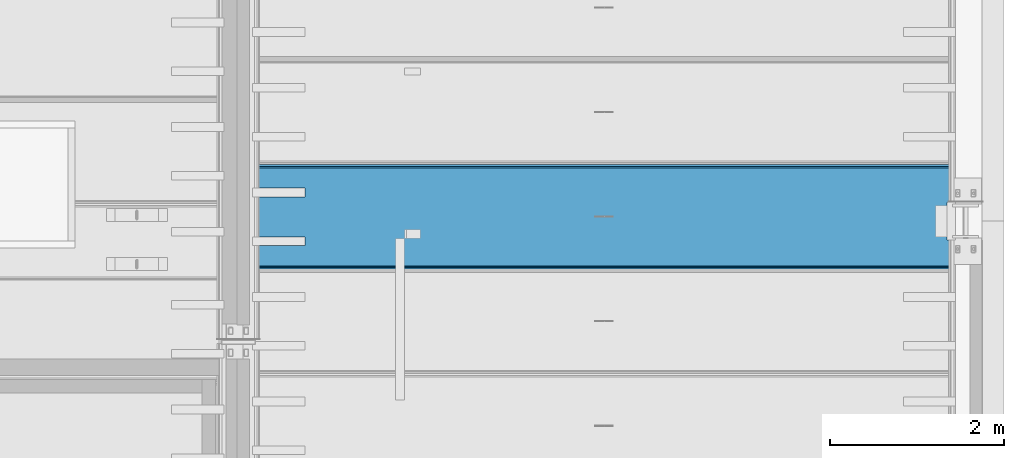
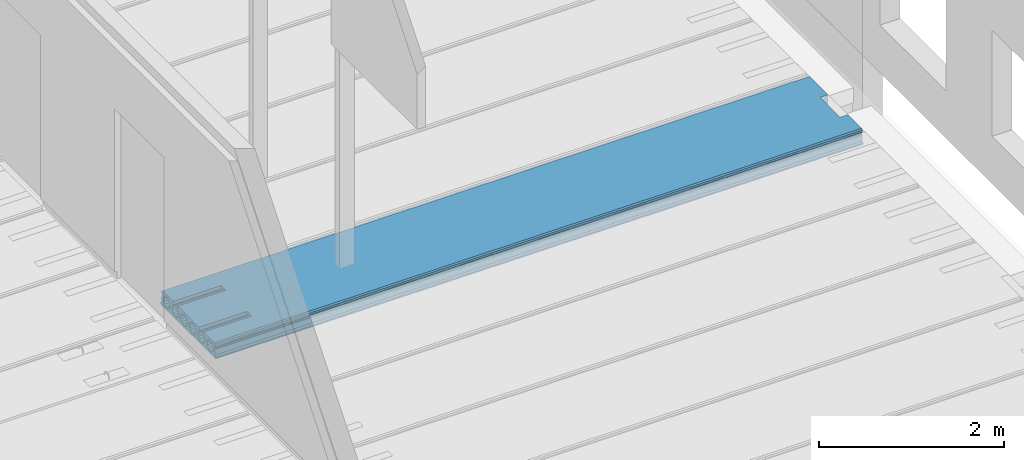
# One storey, part 109 of 230: 1 beam.
"""IFC4X3_ADD2 building model written with IfcOpenShell, lengths in millimetres."""

from ifc_helpers import new_model, si_unit, direction, origin_with_axes, place, context, subcontext, project, spatial, polygons, element, save


model = new_model("IFC4X3_ADD2")

# Units and contexts
model_context = context("Model", 3, precision=1e-05, world=origin_with_axes(), true_north=direction((0.0, 1.0)))
body_context = subcontext(model_context, "Body", "Model", "MODEL_VIEW")
ifc_project = project(units=[si_unit("LENGTHUNIT", "METRE", prefix="MILLI"), si_unit("AREAUNIT", "SQUARE_METRE"), si_unit("VOLUMEUNIT", "CUBIC_METRE"), si_unit("PLANEANGLEUNIT", "RADIAN"), si_unit("TIMEUNIT", "SECOND"), si_unit("MASSUNIT", "GRAM")], contexts=[model_context])

# Site, building, storey
site_placement = place(None, origin_with_axes())
site = spatial("IfcSite", under=ifc_project, at=site_placement, Name="Site", CompositionType="ELEMENT")
building_placement = place(site_placement, origin_with_axes())
building = spatial("IfcBuilding", under=site, at=building_placement, Name="IFC Building Story")
storey_placement = place(building_placement, origin_with_axes())
storey = spatial("IfcBuildingStorey", under=building, at=storey_placement, Name="ETAGE 00 (0)", Elevation=0.0)

# Beam
beam_placement = place(storey_placement, origin_with_axes())
element("IfcBeam", 1, at=beam_placement, inside=storey, Name="HOLLOWCORE SLAB", ObjectType="EB_SP200", context=body_context, shape_type="Tessellation", body=[
    polygons([(40131.189, 9349.0, 3999.9999909), (40131.189, 8171.0, 3999.9999909), (40131.189, 8160.0, 4012.9999909), (40131.189, 8160.0, 4029.9999909), (40131.189, 8180.0, 4044.9999909), (40131.189, 8181.450012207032, 4119.9999909), (40131.189, 8188.982621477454, 4128.676139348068), (40131.189, 8191.839930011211, 4139.805000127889), (40131.189, 8189.418636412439, 4151.036789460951), (40131.189, 8182.22998046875, 4159.9999909), (40131.189, 8182.711296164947, 4185.002769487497), (40131.189, 8198.0, 4199.9999909), (40131.189, 8430.0, 4199.9999909), (40131.189, 8430.0, 4155.806158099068), (40131.189, 8425.320544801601, 4152.679446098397), (40131.189, 8409.17097482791, 4128.509906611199), (40131.189, 8403.5, 4099.9999909), (40131.189, 8409.17097482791, 4071.490075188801), (40131.189, 8425.320544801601, 4047.320535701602), (40131.189, 8449.490084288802, 4031.170965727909), (40131.189, 8478.0, 4025.4999909), (40131.189, 8506.509915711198, 4031.170965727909), (40131.189, 8530.679455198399, 4047.320535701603), (40131.189, 8546.82902517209, 4071.490075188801), (40131.189, 8552.5, 4099.9999909), (40131.189, 8546.82902517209, 4128.509906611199), (40131.189, 8530.679455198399, 4152.679446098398), (40131.189, 8530.0, 4153.13344354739), (40131.189, 8530.0, 4199.9999909), (40131.189, 8990.0, 4199.9999909), (40131.189, 8990.0, 4153.13344354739), (40131.189, 8989.320544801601, 4152.679446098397), (40131.189, 8973.17097482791, 4128.509906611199), (40131.189, 8967.5, 4099.9999909), (40131.189, 8973.17097482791, 4071.490075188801), (40131.189, 8989.320544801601, 4047.320535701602), (40131.189, 9013.490084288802, 4031.170965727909), (40131.189, 9042.0, 4025.4999909), (40131.189, 9070.509915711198, 4031.170965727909), (40131.189, 9094.679455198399, 4047.320535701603), (40131.189, 9110.82902517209, 4071.490075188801), (40131.189, 9116.5, 4099.9999909), (40131.189, 9110.82902517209, 4128.509906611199), (40131.189, 9094.679455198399, 4152.679446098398), (40131.189, 9090.0, 4155.806158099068), (40131.189, 9090.0, 4199.9999909), (40131.189, 9322.0, 4199.9999909), (40131.189, 9337.28870383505, 4185.002769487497), (40131.189, 9337.77001953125, 4159.9999909), (40131.189, 9330.58136358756, 4151.036789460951), (40131.189, 9328.16006998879, 4139.805000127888), (40131.189, 9331.01737852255, 4128.676139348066), (40131.189, 9338.54998779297, 4119.9999909), (40131.189, 9340.0, 4044.9999909), (40131.189, 9360.0, 4029.9999909), (40131.189, 9360.0, 4012.9999909), (40131.189, 9282.679455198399, 4152.679446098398), (40131.189, 9258.5099157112, 4168.829016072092), (40131.189, 9230.0, 4174.4999909), (40131.189, 9201.4900842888, 4168.829016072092), (40131.189, 9177.320544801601, 4152.679446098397), (40131.189, 9161.17097482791, 4128.509906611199), (40131.189, 9155.5, 4099.9999909), (40131.189, 9161.17097482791, 4071.490075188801), (40131.189, 9177.320544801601, 4047.320535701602), (40131.189, 9201.4900842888, 4031.170965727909), (40131.189, 9230.0, 4025.4999909), (40131.189, 9258.5099157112, 4031.170965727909), (40131.189, 9282.679455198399, 4047.320535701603), (40131.189, 9298.82902517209, 4071.490075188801), (40131.189, 9304.5, 4099.9999909), (40131.189, 9298.82902517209, 4128.509906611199), (40131.189, 8906.679455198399, 4152.679446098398), (40131.189, 8882.5099157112, 4168.829016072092), (40131.189, 8854.0, 4174.4999909), (40131.189, 8825.490084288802, 4168.829016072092), (40131.189, 8801.320544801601, 4152.679446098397), (40131.189, 8785.170974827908, 4128.509906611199), (40131.189, 8779.5, 4099.9999909), (40131.189, 8785.17097482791, 4071.490075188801), (40131.189, 8801.320544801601, 4047.320535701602), (40131.189, 8825.490084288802, 4031.170965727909), (40131.189, 8854.0, 4025.4999909), (40131.189, 8882.5099157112, 4031.170965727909), (40131.189, 8906.679455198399, 4047.320535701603), (40131.189, 8922.82902517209, 4071.490075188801), (40131.189, 8928.5, 4099.9999909), (40131.189, 8922.82902517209, 4128.509906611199), (40131.189, 8718.679455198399, 4152.679446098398), (40131.189, 8694.509915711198, 4168.829016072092), (40131.189, 8666.0, 4174.4999909), (40131.189, 8637.4900842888, 4168.829016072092), (40131.189, 8613.320544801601, 4152.679446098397), (40131.189, 8597.17097482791, 4128.509906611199), (40131.189, 8591.5, 4099.9999909), (40131.189, 8597.17097482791, 4071.490075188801), (40131.189, 8613.320544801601, 4047.320535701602), (40131.189, 8637.4900842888, 4031.170965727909), (40131.189, 8666.0, 4025.4999909), (40131.189, 8694.509915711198, 4031.170965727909), (40131.189, 8718.679455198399, 4047.320535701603), (40131.189, 8734.829025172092, 4071.490075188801), (40131.189, 8740.5, 4099.9999909), (40131.189, 8734.82902517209, 4128.509906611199), (40131.189, 8342.679455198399, 4152.679446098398), (40131.189, 8318.5099157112, 4168.829016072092), (40131.189, 8290.0, 4174.4999909), (40131.189, 8261.4900842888, 4168.829016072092), (40131.189, 8237.320544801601, 4152.679446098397), (40131.189, 8221.170974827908, 4128.509906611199), (40131.189, 8215.5, 4099.9999909), (40131.189, 8221.170974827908, 4071.490075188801), (40131.189, 8237.320544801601, 4047.320535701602), (40131.189, 8261.4900842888, 4031.170965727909), (40131.189, 8290.0, 4025.4999909), (40131.189, 8318.5099157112, 4031.170965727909), (40131.189, 8342.679455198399, 4047.320535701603), (40131.189, 8358.829025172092, 4071.490075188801), (40131.189, 8364.5, 4099.9999909), (40131.189, 8358.829025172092, 4128.509906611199), (48196.189, 8198.0, 4199.9999909), (48196.189, 8182.711296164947, 4185.002769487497), (48196.189, 8182.22998046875, 4159.9999909), (48196.189, 8189.418636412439, 4151.036789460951), (48196.189, 8191.839930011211, 4139.805000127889), (48196.189, 8188.982621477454, 4128.676139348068), (48196.189, 8181.450012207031, 4119.9999909), (48196.189, 8180.0, 4044.9999909), (48196.189, 8160.0, 4029.9999909), (48196.189, 8160.0, 4012.9999909), (48196.189, 8171.0, 3999.9999909), (48196.189, 8495.0, 3999.9999909), (48196.189, 8495.0, 4028.881501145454), (48196.189, 8478.0, 4025.4999909), (48196.189, 8449.490084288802, 4031.170965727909), (48196.189, 8425.320544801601, 4047.320535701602), (48196.189, 8409.17097482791, 4071.490075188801), (48196.189, 8403.5, 4099.9999909), (48196.189, 8409.17097482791, 4128.509906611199), (48196.189, 8425.320544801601, 4152.679446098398), (48196.189, 8449.490084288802, 4168.829016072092), (48196.189, 8478.0, 4174.4999909), (48196.189, 8495.0, 4171.118480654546), (48196.189, 8495.0, 4199.9999909), (48196.189, 8342.679455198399, 4152.679446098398), (48196.189, 8358.829025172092, 4128.509906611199), (48196.189, 8364.5, 4099.9999909), (48196.189, 8358.829025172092, 4071.490075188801), (48196.189, 8342.679455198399, 4047.320535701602), (48196.189, 8318.5099157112, 4031.170965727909), (48196.189, 8290.0, 4025.4999909), (48196.189, 8261.4900842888, 4031.170965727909), (48196.189, 8237.320544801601, 4047.320535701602), (48196.189, 8221.170974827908, 4071.490075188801), (48196.189, 8215.5, 4099.9999909), (48196.189, 8221.170974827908, 4128.509906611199), (48196.189, 8237.320544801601, 4152.679446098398), (48196.189, 8261.4900842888, 4168.829016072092), (48196.189, 8290.0, 4174.4999909), (48196.189, 8318.5099157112, 4168.829016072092), (48196.189, 9349.0, 3999.9999909), (48196.189, 8925.0, 3999.9999909), (48096.18900000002, 8925.0, 3999.9999909), (48096.18900000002, 8495.0, 3999.9999909), (40731.189, 9090.0, 4199.9999909), (40731.189, 8990.0, 4199.9999909), (40731.189, 8530.0, 4199.9999909), (40731.189, 8430.0, 4199.9999909), (48096.18900000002, 8495.000000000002, 4199.9999909), (48096.18900000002, 8925.0, 4199.9999909), (48196.189, 8925.0, 4199.9999909), (48196.189, 9322.0, 4199.9999909), (48196.189, 9337.28870383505, 4185.002769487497), (48196.189, 9337.77001953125, 4159.9999909), (48196.189, 9330.58136358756, 4151.036789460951), (48196.189, 9328.16006998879, 4139.805000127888), (48196.189, 9331.01737852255, 4128.676139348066), (48196.189, 9338.54998779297, 4119.9999909), (48196.189, 9340.0, 4044.9999909), (48196.189, 9360.0, 4029.9999909), (48196.189, 9360.0, 4012.9999909), (48196.189, 9282.679455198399, 4152.679446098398), (48196.189, 9258.5099157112, 4168.829016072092), (48196.189, 9230.0, 4174.4999909), (48196.189, 9201.4900842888, 4168.829016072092), (48196.189, 9177.320544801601, 4152.679446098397), (48196.189, 9161.17097482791, 4128.509906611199), (48196.189, 9155.5, 4099.9999909), (48196.189, 9161.17097482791, 4071.490075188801), (48196.189, 9177.320544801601, 4047.320535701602), (48196.189, 9201.4900842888, 4031.170965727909), (48196.189, 9230.0, 4025.4999909), (48196.189, 9258.5099157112, 4031.170965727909), (48196.189, 9282.679455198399, 4047.320535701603), (48196.189, 9298.82902517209, 4071.490075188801), (48196.189, 9304.5, 4099.9999909), (48196.189, 9298.82902517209, 4128.509906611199), (48196.189, 9094.679455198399, 4152.679446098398), (48196.189, 9070.509915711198, 4168.829016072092), (40731.189, 9070.5099157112, 4168.82901607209), (40731.189, 9090.0, 4155.806158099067), (48196.189, 9042.0, 4174.4999909), (40731.189, 9042.0, 4174.4999909), (48196.189, 9013.490084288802, 4168.829016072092), (40731.189, 9013.490084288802, 4168.829016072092), (40731.189, 8990.0, 4153.133443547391), (48196.189, 8989.320544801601, 4152.679446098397), (48196.189, 8973.17097482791, 4128.509906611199), (48196.189, 8967.5, 4099.9999909), (48196.189, 8973.17097482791, 4071.490075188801), (48196.189, 8989.320544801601, 4047.320535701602), (48196.189, 9013.490084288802, 4031.170965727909), (48196.189, 9042.0, 4025.4999909), (48196.189, 9070.509915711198, 4031.170965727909), (48196.189, 9094.679455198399, 4047.320535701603), (48196.189, 9110.82902517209, 4071.490075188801), (48196.189, 9116.5, 4099.9999909), (48196.189, 9110.82902517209, 4128.509906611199), (48096.18900000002, 8906.679455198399, 4152.679446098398), (48096.18900000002, 8882.5099157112, 4168.829016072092), (48096.18900000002, 8854.0, 4174.4999909), (48096.18900000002, 8825.490084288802, 4168.829016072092), (48096.18900000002, 8801.320544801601, 4152.679446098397), (48096.18900000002, 8785.170974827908, 4128.509906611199), (48096.18900000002, 8779.5, 4099.9999909), (48096.18900000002, 8785.17097482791, 4071.490075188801), (48096.18900000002, 8801.320544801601, 4047.320535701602), (48096.18900000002, 8825.490084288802, 4031.170965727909), (48096.18900000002, 8854.0, 4025.4999909), (48096.18900000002, 8882.5099157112, 4031.170965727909), (48096.18900000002, 8906.679455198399, 4047.320535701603), (48096.18900000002, 8922.82902517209, 4071.490075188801), (48096.18900000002, 8924.999999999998, 4082.404302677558), (48196.189, 8925.0, 4082.404302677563), (48196.189, 8928.5, 4099.9999909), (48196.189, 8925.000000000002, 4117.595679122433), (48096.18900000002, 8925.0, 4117.595679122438), (48096.18900000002, 8922.82902517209, 4128.509906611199), (48096.18900000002, 8718.679455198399, 4152.679446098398), (48096.18900000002, 8694.509915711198, 4168.829016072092), (48096.18900000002, 8666.0, 4174.4999909), (48096.18900000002, 8637.4900842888, 4168.829016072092), (48096.18900000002, 8613.320544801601, 4152.679446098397), (48096.18900000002, 8597.17097482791, 4128.509906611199), (48096.18900000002, 8591.5, 4099.9999909), (48096.18900000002, 8597.17097482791, 4071.490075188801), (48096.18900000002, 8613.320544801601, 4047.320535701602), (48096.18900000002, 8637.4900842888, 4031.170965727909), (48096.18900000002, 8666.0, 4025.4999909), (48096.18900000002, 8694.509915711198, 4031.170965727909), (48096.18900000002, 8718.679455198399, 4047.320535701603), (48096.18900000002, 8734.829025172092, 4071.490075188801), (48096.18900000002, 8740.5, 4099.9999909), (48096.18900000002, 8734.82902517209, 4128.509906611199), (48096.18900000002, 8530.679455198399, 4152.679446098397), (48096.18900000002, 8506.509915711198, 4168.829016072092), (40731.189, 8506.5099157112, 4168.82901607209), (40731.189, 8530.0, 4153.13344354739), (40731.189, 8478.0, 4174.4999909), (48096.18900000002, 8495.0, 4171.118480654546), (40731.189, 8449.4900842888, 4168.829016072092), (40731.189, 8430.0, 4155.806158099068), (48096.18900000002, 8495.000000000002, 4028.881501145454), (48096.18900000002, 8506.509915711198, 4031.170965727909), (48096.18900000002, 8530.679455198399, 4047.320535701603), (48096.18900000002, 8546.82902517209, 4071.490075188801), (48096.18900000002, 8552.5, 4099.9999909), (48096.18900000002, 8546.82902517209, 4128.509906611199), (48096.18900000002, 8495.0, 3999.9999969), (48096.18900000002, 8925.0, 3999.9999969), (48096.18900000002, 8495.0, 4199.999996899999), (40731.189, 8990.0, 4199.999996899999), (40731.189, 9090.0, 4199.999996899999), (40731.189, 8430.0, 4199.999996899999), (40731.189, 8530.0, 4199.999996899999), (48096.18900000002, 8925.0, 4199.999996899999)], [[[27, 28, 29]], [[92, 93, 26]], [[92, 26, 27]], [[92, 27, 29]], [[29, 91, 92]], [[91, 29, 30]], [[30, 90, 91]], [[30, 89, 90]], [[94, 95, 25]], [[94, 25, 26]], [[26, 93, 94]], [[96, 97, 24]], [[24, 25, 95]], [[24, 95, 96]], [[97, 23, 24]], [[76, 77, 104]], [[76, 104, 89]], [[89, 75, 76]], [[75, 89, 30]], [[30, 74, 75]], [[30, 73, 74]], [[78, 79, 103]], [[78, 103, 104]], [[104, 77, 78]], [[80, 81, 102]], [[102, 103, 79]], [[102, 79, 80]], [[81, 101, 102]], [[88, 73, 30]], [[88, 30, 31]], [[33, 34, 87]], [[33, 87, 88]], [[88, 32, 33]], [[88, 31, 32]], [[35, 36, 86]], [[86, 87, 34]], [[86, 34, 35]], [[36, 85, 86]], [[44, 45, 46]], [[60, 61, 43]], [[60, 43, 44]], [[60, 44, 46]], [[46, 59, 60]], [[46, 47, 59]], [[47, 58, 59]], [[47, 57, 58]], [[62, 63, 42]], [[62, 42, 43]], [[43, 61, 62]], [[64, 65, 41]], [[41, 42, 63]], [[41, 63, 64]], [[50, 51, 72]], [[50, 72, 57]], [[57, 47, 48]], [[57, 48, 49]], [[57, 49, 50]], [[52, 53, 71]], [[52, 71, 72]], [[72, 51, 52]], [[53, 54, 70]], [[53, 70, 71]], [[54, 55, 56]], [[54, 56, 1]], [[1, 69, 70]], [[1, 70, 54]], [[1, 68, 69]], [[1, 67, 68]], [[1, 66, 67]], [[1, 40, 66]], [[40, 41, 65]], [[40, 65, 66]], [[1, 39, 40]], [[1, 38, 39]], [[1, 84, 38]], [[84, 37, 38]], [[84, 85, 36]], [[84, 36, 37]], [[1, 83, 84]], [[1, 100, 83]], [[100, 82, 83]], [[100, 101, 81]], [[100, 81, 82]], [[1, 99, 100]], [[1, 22, 99]], [[22, 98, 99]], [[22, 23, 97]], [[22, 97, 98]], [[1, 21, 22]], [[1, 2, 21]], [[2, 20, 21]], [[2, 19, 20]], [[9, 10, 11]], [[9, 11, 12]], [[109, 110, 8]], [[109, 8, 9]], [[9, 12, 108]], [[9, 108, 109]], [[12, 107, 108]], [[107, 12, 13]], [[13, 106, 107]], [[13, 105, 106]], [[110, 7, 8]], [[112, 113, 5]], [[5, 6, 111]], [[5, 111, 112]], [[6, 7, 110]], [[6, 110, 111]], [[116, 117, 18]], [[116, 18, 19]], [[19, 115, 116]], [[19, 2, 115]], [[2, 114, 115]], [[2, 5, 113]], [[2, 113, 114]], [[2, 3, 4]], [[2, 4, 5]], [[118, 119, 17]], [[118, 17, 18]], [[18, 117, 118]], [[120, 105, 16]], [[16, 17, 119]], [[16, 119, 120]], [[105, 13, 15]], [[105, 15, 16]], [[13, 14, 15]], [[128, 129, 130]], [[128, 130, 131]], [[142, 143, 144]], [[144, 141, 142]], [[141, 144, 145]], [[145, 140, 141]], [[145, 139, 140]], [[146, 147, 138]], [[146, 138, 139]], [[139, 145, 146]], [[148, 149, 137]], [[137, 138, 147]], [[137, 147, 148]], [[155, 156, 126]], [[155, 126, 127]], [[127, 128, 154]], [[127, 154, 155]], [[128, 131, 153]], [[128, 153, 154]], [[131, 152, 153]], [[131, 151, 152]], [[131, 150, 151]], [[131, 136, 150]], [[136, 137, 149]], [[136, 149, 150]], [[131, 135, 136]], [[131, 132, 135]], [[132, 134, 135]], [[132, 133, 134]], [[156, 125, 126]], [[160, 145, 144]], [[144, 159, 160]], [[144, 121, 159]], [[121, 158, 159]], [[121, 124, 157]], [[121, 157, 158]], [[124, 125, 156]], [[124, 156, 157]], [[121, 122, 123]], [[121, 123, 124]], [[164, 132, 131]], [[164, 131, 2]], [[2, 1, 163]], [[2, 163, 164]], [[1, 161, 163]], [[161, 162, 163]], [[3, 2, 131, 130]], [[4, 3, 130, 129]], [[5, 4, 129, 128]], [[6, 5, 128, 127]], [[7, 6, 127, 126]], [[8, 7, 126, 125]], [[9, 8, 125, 124]], [[10, 9, 124, 123]], [[11, 10, 123, 122]], [[12, 11, 122, 121]], [[166, 30, 29]], [[166, 29, 167]], [[168, 13, 12]], [[168, 12, 121]], [[121, 167, 168]], [[166, 167, 121]], [[121, 165, 166]], [[170, 171, 172]], [[170, 172, 47]], [[47, 165, 169]], [[47, 169, 170]], [[165, 121, 169]], [[121, 144, 169]], [[47, 46, 165]], [[48, 47, 172, 173]], [[49, 48, 173, 174]], [[50, 49, 174, 175]], [[51, 50, 175, 176]], [[52, 51, 176, 177]], [[53, 52, 177, 178]], [[54, 53, 178, 179]], [[55, 54, 179, 180]], [[56, 55, 180, 181]], [[1, 56, 181, 161]], [[58, 57, 182, 183]], [[59, 58, 183, 184]], [[60, 59, 184, 185]], [[61, 60, 185, 186]], [[62, 61, 186, 187]], [[63, 62, 187, 188]], [[64, 63, 188, 189]], [[65, 64, 189, 190]], [[66, 65, 190, 191]], [[67, 66, 191, 192]], [[68, 67, 192, 193]], [[69, 68, 193, 194]], [[70, 69, 194, 195]], [[71, 70, 195, 196]], [[72, 71, 196, 197]], [[57, 72, 197, 182]], [[201, 45, 44]], [[201, 44, 198]], [[198, 199, 200]], [[198, 200, 201]], [[199, 202, 203, 200]], [[202, 204, 205, 203]], [[206, 205, 204]], [[206, 204, 207]], [[207, 32, 206]], [[32, 31, 206]], [[33, 32, 207, 208]], [[34, 33, 208, 209]], [[35, 34, 209, 210]], [[36, 35, 210, 211]], [[37, 36, 211, 212]], [[38, 37, 212, 213]], [[39, 38, 213, 214]], [[40, 39, 214, 215]], [[41, 40, 215, 216]], [[42, 41, 216, 217]], [[43, 42, 217, 218]], [[44, 43, 218, 198]], [[74, 73, 219, 220]], [[75, 74, 220, 221]], [[76, 75, 221, 222]], [[77, 76, 222, 223]], [[78, 77, 223, 224]], [[79, 78, 224, 225]], [[80, 79, 225, 226]], [[81, 80, 226, 227]], [[82, 81, 227, 228]], [[83, 82, 228, 229]], [[84, 83, 229, 230]], [[85, 84, 230, 231]], [[86, 85, 231, 232]], [[233, 234, 235]], [[233, 235, 87]], [[233, 87, 86]], [[86, 232, 233]], [[237, 238, 88]], [[88, 87, 235]], [[88, 235, 237]], [[235, 236, 237]], [[73, 88, 238, 219]], [[90, 89, 239, 240]], [[91, 90, 240, 241]], [[92, 91, 241, 242]], [[93, 92, 242, 243]], [[94, 93, 243, 244]], [[95, 94, 244, 245]], [[96, 95, 245, 246]], [[97, 96, 246, 247]], [[98, 97, 247, 248]], [[99, 98, 248, 249]], [[100, 99, 249, 250]], [[101, 100, 250, 251]], [[102, 101, 251, 252]], [[103, 102, 252, 253]], [[104, 103, 253, 254]], [[89, 104, 254, 239]], [[258, 28, 27]], [[258, 27, 255]], [[255, 256, 257]], [[255, 257, 258]], [[260, 143, 142]], [[260, 142, 259]], [[260, 259, 257]], [[257, 256, 260]], [[142, 141, 261, 259]], [[262, 261, 141]], [[262, 141, 140]], [[140, 15, 262]], [[15, 14, 262]], [[16, 15, 140, 139]], [[17, 16, 139, 138]], [[18, 17, 138, 137]], [[19, 18, 137, 136]], [[20, 19, 136, 135]], [[21, 20, 135, 134]], [[263, 264, 22]], [[22, 21, 134]], [[22, 134, 263]], [[134, 133, 263]], [[23, 22, 264, 265]], [[24, 23, 265, 266]], [[25, 24, 266, 267]], [[26, 25, 267, 268]], [[27, 26, 268, 255]], [[106, 105, 145, 160]], [[107, 106, 160, 159]], [[108, 107, 159, 158]], [[109, 108, 158, 157]], [[110, 109, 157, 156]], [[111, 110, 156, 155]], [[112, 111, 155, 154]], [[113, 112, 154, 153]], [[114, 113, 153, 152]], [[115, 114, 152, 151]], [[116, 115, 151, 150]], [[117, 116, 150, 149]], [[118, 117, 149, 148]], [[119, 118, 148, 147]], [[120, 119, 147, 146]], [[105, 120, 146, 145]], [[162, 234, 233, 163]], [[133, 132, 269, 263]], [[264, 263, 164]], [[164, 265, 264]], [[238, 237, 170]], [[170, 219, 238]], [[170, 220, 219]], [[170, 221, 220]], [[170, 222, 221]], [[222, 170, 240]], [[240, 223, 222]], [[240, 239, 224]], [[240, 224, 223]], [[254, 253, 225]], [[254, 225, 224]], [[224, 239, 254]], [[253, 252, 226]], [[253, 226, 225]], [[252, 227, 226]], [[252, 228, 227]], [[265, 164, 248]], [[248, 247, 266]], [[248, 266, 265]], [[164, 249, 248]], [[249, 164, 270]], [[270, 250, 249]], [[270, 251, 250]], [[228, 252, 251]], [[251, 270, 228]], [[270, 229, 228]], [[270, 230, 229]], [[270, 231, 230]], [[270, 232, 231]], [[270, 233, 232]], [[246, 245, 267]], [[246, 267, 266]], [[266, 247, 246]], [[244, 243, 268]], [[268, 267, 245]], [[268, 245, 244]], [[243, 255, 268]], [[241, 240, 170]], [[170, 271, 241]], [[271, 242, 241]], [[271, 255, 243]], [[271, 243, 242]], [[271, 256, 255]], [[271, 260, 256]], [[46, 45, 201, 165]], [[31, 30, 272, 206]], [[205, 206, 166]], [[166, 273, 203]], [[166, 203, 205]], [[273, 200, 203]], [[273, 201, 200]], [[258, 167, 29, 28]], [[274, 262, 14, 13]], [[261, 262, 168]], [[168, 259, 261]], [[168, 275, 257]], [[168, 257, 259]], [[275, 258, 257]], [[175, 174, 173]], [[175, 173, 172]], [[175, 172, 182]], [[182, 197, 176]], [[182, 176, 175]], [[197, 177, 176]], [[195, 194, 179]], [[179, 178, 196]], [[179, 196, 195]], [[178, 177, 197]], [[178, 197, 196]], [[183, 182, 172]], [[172, 184, 183]], [[172, 185, 184]], [[172, 198, 185]], [[198, 186, 185]], [[198, 187, 186]], [[218, 217, 188]], [[218, 188, 187]], [[187, 198, 218]], [[216, 215, 189]], [[189, 188, 217]], [[189, 217, 216]], [[210, 209, 235]], [[210, 235, 234]], [[234, 162, 211]], [[234, 211, 210]], [[162, 212, 211]], [[162, 213, 212]], [[162, 214, 213]], [[162, 190, 214]], [[190, 189, 215]], [[190, 215, 214]], [[162, 191, 190]], [[162, 192, 191]], [[162, 161, 192]], [[161, 193, 192]], [[161, 179, 194]], [[161, 194, 193]], [[161, 181, 180]], [[161, 180, 179]], [[199, 198, 172]], [[172, 202, 199]], [[172, 171, 202]], [[171, 204, 202]], [[171, 207, 204]], [[171, 236, 208]], [[171, 208, 207]], [[236, 235, 209]], [[236, 209, 208]], [[236, 171, 276, 237]], [[144, 143, 260, 169]]]),
])

save(model, "model.ifc")
